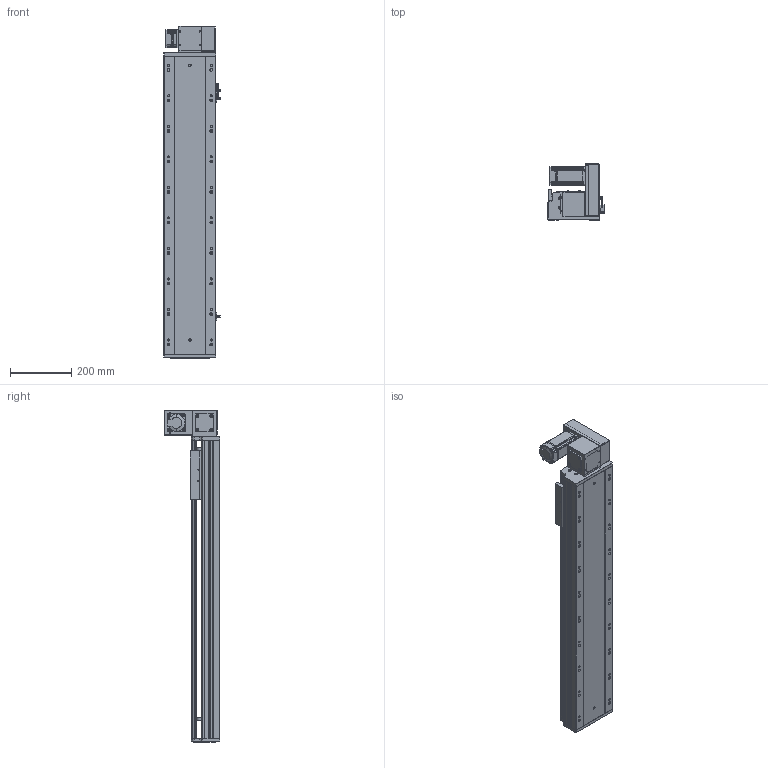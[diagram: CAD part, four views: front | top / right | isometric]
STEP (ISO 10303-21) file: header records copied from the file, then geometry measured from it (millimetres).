
FILE_DESCRIPTION (( 'STEP AP203' ), '1' );
FILE_NAME ('RY170-T-300-UR-P400W.SLDASM_700.step', '2021-03-01T09:27:20', ( '盈信电脑' ), ( '东莞市道滘镇水果街19号' ), 'SwSTEP 2.0', 'SolidWorks 2012', '' );
FILE_SCHEMA (( 'CONFIG_CONTROL_DESIGN' ));
Length unit declared in the file: millimetre
Products named in the file (18): RY170-T-300-UR-P400W.SLDASM_700; RY170-T肮祭謫裔啣; 滅袉蝶18-10; 15; RY170-T蹟翐M4; RY170-T肮祭湍揤踡輸2; RY170-T肮祭湍揤踡輸1; RY120-T主同步轮轴承压盖; RY170肮祭謫萇儂欶; RY170同步轮电机安装板(400W); RY170肮祭謫ヶ裔啣; RY170翋肮祭謫釱; RY170-T-300肮祭謫倰第裔啣-DR_700; RY170外置感应片(200共用）; RY170綴裔啣; 覜茼ん672; RY170肮祭湍臏賑輸; RY170-T-300肮祭謫倰第菁釱-DR_700
Assembly tree (22 placements, depth 2):
  RY170-T-300-UR-P400W.SLDASM_700
    RY170-T-300肮祭謫倰第菁釱-DR_700
    RY170肮祭湍臏賑輸
    RY170-T-300肮祭謫倰第裔啣-DR_700
    RY170綴裔啣
    覜茼ん672  x3
    RY170外置感应片(200共用）
    RY170肮祭謫ヶ裔啣
    RY170翋肮祭謫釱
    RY170同步轮电机安装板(400W)
    RY170肮祭謫萇儂欶
    RY170-T肮祭湍揤踡輸1  x2
    RY170-T肮祭湍揤踡輸2  x2
    RY120-T主同步轮轴承压盖
    RY170-T肮祭謫裔啣
    RY170-T蹟翐M4
    滅袉蝶18-10  x2
    15
Bounding box: 183.7 x 182 x 1088 mm (x, y, z)
Volume: 5646177.3 mm3; surface area: 1905287.4 mm2
Topology: 22 solids, 22 shells, 2788 faces, 7818 edges, 5037 vertices
Faces by surface type: cylinder 1272, plane 1266, cone 220, bspline 30
Entity records: 84568 total; most frequent: CARTESIAN_POINT 19473, ORIENTED_EDGE 13376, DIRECTION 12964, EDGE_CURVE 6688, AXIS2_PLACEMENT_3D 4558, VERTEX_POINT 4393, LINE 3848, VECTOR 3848
